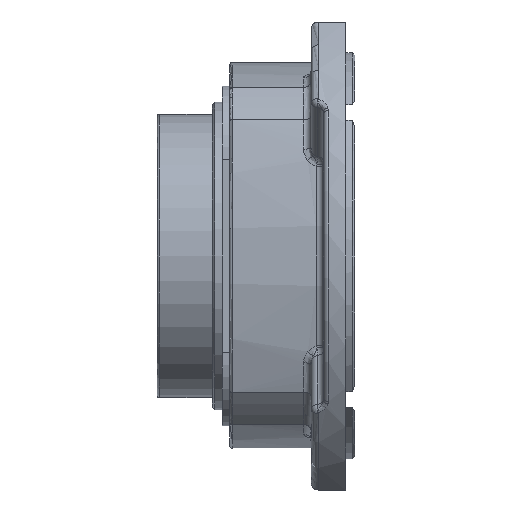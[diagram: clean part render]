
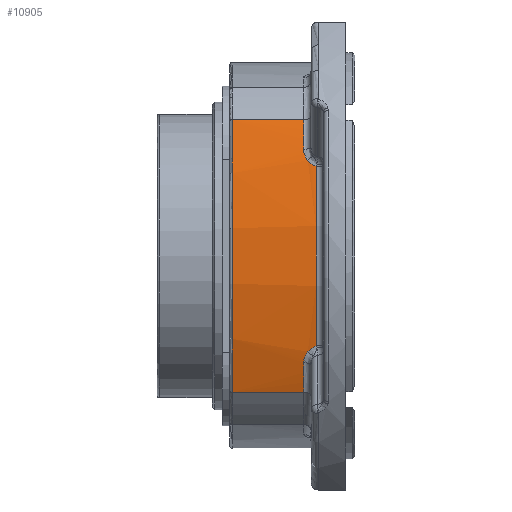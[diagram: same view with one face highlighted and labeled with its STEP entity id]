
A CAD part, front view. The second image highlights one B-rep face of the part: STEP entity #10905.
In plain terms, the highlighted cylindrical face has radius 157 mm (diameter 314 mm), a partial arc.
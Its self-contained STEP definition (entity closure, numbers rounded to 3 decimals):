
#63 = CARTESIAN_POINT ( 'NONE',  ( -14., -68.425, 55.335 ) ) ;
#64 = DIRECTION ( 'NONE',  ( -1., 0., 0. ) ) ;
#71 = CARTESIAN_POINT ( 'NONE',  ( -14., -68.425, -55.335 ) ) ;
#72 = DIRECTION ( 'NONE',  ( -1., 0., 0. ) ) ;
#76 = CARTESIAN_POINT ( 'NONE',  ( -14.877, -73.762, -38.283 ) ) ;
#77 = CARTESIAN_POINT ( 'NONE',  ( -46.03, 78.5, 0. ) ) ;
#78 = DIRECTION ( 'NONE',  ( 1., 0., 0. ) ) ;
#79 = DIRECTION ( 'NONE',  ( 0., 0., 1. ) ) ;
#80 = CARTESIAN_POINT ( 'NONE',  ( -15.336, -73.627, -38.814 ) ) ;
#81 = CARTESIAN_POINT ( 'NONE',  ( -17., -72.635, -42.52 ) ) ;
#82 = CARTESIAN_POINT ( 'NONE',  ( -16.86, -72.857, -41.72 ) ) ;
#83 = CARTESIAN_POINT ( 'NONE',  ( -17., 78.5, 0. ) ) ;
#84 = DIRECTION ( 'NONE',  ( -1., 0., 0. ) ) ;
#85 = DIRECTION ( 'NONE',  ( 0., 0., 1. ) ) ;
#86 = CARTESIAN_POINT ( 'NONE',  ( -17., -72.399, -43.342 ) ) ;
#87 = CARTESIAN_POINT ( 'NONE',  ( -16.437, -73.172, -40.555 ) ) ;
#88 = CARTESIAN_POINT ( 'NONE',  ( -16.263, -73.272, -40.18 ) ) ;
#89 = CARTESIAN_POINT ( 'NONE',  ( -15.849, -73.458, -39.469 ) ) ;
#90 = CARTESIAN_POINT ( 'NONE',  ( -15.611, -73.545, -39.131 ) ) ;
#91 = CARTESIAN_POINT ( 'NONE',  ( -15.336, -73.627, -38.814 ) ) ;
#92 = CARTESIAN_POINT ( 'NONE',  ( -15.336, -73.627, 38.814 ) ) ;
#93 = CARTESIAN_POINT ( 'NONE',  ( -15.61, -73.546, 39.131 ) ) ;
#94 = CARTESIAN_POINT ( 'NONE',  ( -14.35, -73.879, -37.814 ) ) ;
#95 = CARTESIAN_POINT ( 'NONE',  ( -13.218, -74.085, -36.973 ) ) ;
#96 = CARTESIAN_POINT ( 'NONE',  ( -12.615, -74.174, -36.601 ) ) ;
#97 = CARTESIAN_POINT ( 'NONE',  ( -12., -74.258, -36.25 ) ) ;
#98 = CARTESIAN_POINT ( 'NONE',  ( -12.615, -74.174, 36.601 ) ) ;
#99 = CARTESIAN_POINT ( 'NONE',  ( -13.218, -74.085, 36.972 ) ) ;
#100 = CARTESIAN_POINT ( 'NONE',  ( -12., 78.5, 0. ) ) ;
#101 = DIRECTION ( 'NONE',  ( -1., 0., 0. ) ) ;
#102 = DIRECTION ( 'NONE',  ( 0., 0., 1. ) ) ;
#103 = CARTESIAN_POINT ( 'NONE',  ( -12., -74.258, 36.25 ) ) ;
#104 = CARTESIAN_POINT ( 'NONE',  ( -14.349, -73.879, 37.813 ) ) ;
#105 = CARTESIAN_POINT ( 'NONE',  ( -14.877, -73.762, 38.284 ) ) ;
#106 = CARTESIAN_POINT ( 'NONE',  ( -15.336, -73.627, 38.814 ) ) ;
#107 = CARTESIAN_POINT ( 'NONE',  ( -15.849, -73.459, 39.468 ) ) ;
#108 = CARTESIAN_POINT ( 'NONE',  ( -16.263, -73.272, 40.18 ) ) ;
#109 = CARTESIAN_POINT ( 'NONE',  ( -16.439, -73.171, 40.559 ) ) ;
#110 = CARTESIAN_POINT ( 'NONE',  ( -16.718, -72.963, 41.329 ) ) ;
#111 = CARTESIAN_POINT ( 'NONE',  ( -16.823, -72.855, 41.722 ) ) ;
#112 = CARTESIAN_POINT ( 'NONE',  ( -16.964, -72.633, 42.522 ) ) ;
#113 = CARTESIAN_POINT ( 'NONE',  ( -17., -72.517, 42.932 ) ) ;
#114 = CARTESIAN_POINT ( 'NONE',  ( -17., -72.399, 43.342 ) ) ;
#117 = CARTESIAN_POINT ( 'NONE',  ( -17., 78.5, 0. ) ) ;
#118 = DIRECTION ( 'NONE',  ( -1., 0., 0. ) ) ;
#119 = DIRECTION ( 'NONE',  ( 0., 0., 1. ) ) ;
#384 = CARTESIAN_POINT ( 'NONE',  ( -46.03, -68.425, 55.335 ) ) ;
#412 = CARTESIAN_POINT ( 'NONE',  ( -15.336, -73.627, -38.814 ) ) ;
#413 = CARTESIAN_POINT ( 'NONE',  ( -17., -68.425, -55.335 ) ) ;
#415 = CARTESIAN_POINT ( 'NONE',  ( -12., -74.258, 36.25 ) ) ;
#416 = CARTESIAN_POINT ( 'NONE',  ( -17., -72.399, -43.342 ) ) ;
#418 = CARTESIAN_POINT ( 'NONE',  ( -17., -72.399, 43.342 ) ) ;
#425 = CARTESIAN_POINT ( 'NONE',  ( -12., -74.258, -36.25 ) ) ;
#426 = CARTESIAN_POINT ( 'NONE',  ( -46.03, -68.425, -55.335 ) ) ;
#430 = CARTESIAN_POINT ( 'NONE',  ( -15.336, -73.627, 38.814 ) ) ;
#488 = CARTESIAN_POINT ( 'NONE',  ( -17., -68.425, 55.335 ) ) ;
#774 = LINE ( 'NONE', #63, #776 ) ;
#775 = CIRCLE ( 'NONE', #5971, 157. ) ;
#776 = VECTOR ( 'NONE', #64, 1000. ) ;
#777 = CIRCLE ( 'NONE', #5970, 157. ) ;
#778 = LINE ( 'NONE', #71, #780 ) ;
#779 = CIRCLE ( 'NONE', #5972, 157. ) ;
#780 = VECTOR ( 'NONE', #72, 1000. ) ;
#781 = CIRCLE ( 'NONE', #5973, 157. ) ;
#951 = B_SPLINE_CURVE_WITH_KNOTS ( 'NONE', 3,
 ( #86, #81, #82, #87, #88, #89, #90, #91 ),
 .UNSPECIFIED., .F., .F.,
 ( 4, 2, 2, 4 ),
 ( 0., 0.003, 0.004, 0.005 ),
 .UNSPECIFIED. ) ;
#952 = B_SPLINE_CURVE_WITH_KNOTS ( 'NONE', 3,
 ( #80, #76, #94, #95, #96, #97 ),
 .UNSPECIFIED., .F., .F.,
 ( 4, 2, 4 ),
 ( 0., 0.002, 0.004 ),
 .UNSPECIFIED. ) ;
#953 = B_SPLINE_CURVE_WITH_KNOTS ( 'NONE', 3,
 ( #103, #98, #99, #104, #105, #106 ),
 .UNSPECIFIED., .F., .F.,
 ( 4, 2, 4 ),
 ( 0.001, 0.003, 0.005 ),
 .UNSPECIFIED. ) ;
#954 = B_SPLINE_CURVE_WITH_KNOTS ( 'NONE', 3,
 ( #92, #93, #107, #108, #109, #110, #111, #112, #113, #114 ),
 .UNSPECIFIED., .F., .F.,
 ( 4, 2, 2, 2, 4 ),
 ( 0., 0.001, 0.003, 0.004, 0.005 ),
 .UNSPECIFIED. ) ;
#1810 = FACE_OUTER_BOUND ( 'NONE', #11146, .T. ) ;
#1814 = CYLINDRICAL_SURFACE ( 'NONE', #2583, 157. ) ;
#2583 = AXIS2_PLACEMENT_3D ( 'NONE', #8346, #8345, #8342 ) ;
#5970 = AXIS2_PLACEMENT_3D ( 'NONE', #77, #78, #79 ) ;
#5971 = AXIS2_PLACEMENT_3D ( 'NONE', #83, #84, #85 ) ;
#5972 = AXIS2_PLACEMENT_3D ( 'NONE', #100, #101, #102 ) ;
#5973 = AXIS2_PLACEMENT_3D ( 'NONE', #117, #118, #119 ) ;
#8342 = DIRECTION ( 'NONE',  ( 0., 0., 1. ) ) ;
#8345 = DIRECTION ( 'NONE',  ( -1., 0., 0. ) ) ;
#8346 = CARTESIAN_POINT ( 'NONE',  ( -14., 78.5, 0. ) ) ;
#10905 = ADVANCED_FACE ( 'NONE', ( #1810 ), #1814, .T. ) ;
#11146 = EDGE_LOOP ( 'NONE', ( #11936, #11937, #11938, #11939, #11940, #11941, #11942, #11943, #11944, #11945 ) ) ;
#11936 = ORIENTED_EDGE ( 'NONE', *, *, #13305, .T. ) ;
#11937 = ORIENTED_EDGE ( 'NONE', *, *, #13307, .T. ) ;
#11938 = ORIENTED_EDGE ( 'NONE', *, *, #13308, .F. ) ;
#11939 = ORIENTED_EDGE ( 'NONE', *, *, #13309, .T. ) ;
#11940 = ORIENTED_EDGE ( 'NONE', *, *, #13310, .T. ) ;
#11941 = ORIENTED_EDGE ( 'NONE', *, *, #13311, .T. ) ;
#11942 = ORIENTED_EDGE ( 'NONE', *, *, #13312, .T. ) ;
#11943 = ORIENTED_EDGE ( 'NONE', *, *, #13313, .T. ) ;
#11944 = ORIENTED_EDGE ( 'NONE', *, *, #13314, .T. ) ;
#11945 = ORIENTED_EDGE ( 'NONE', *, *, #13315, .T. ) ;
#13305 = EDGE_CURVE ( 'NONE', #14778, #14674, #774, .T. ) ;
#13307 = EDGE_CURVE ( 'NONE', #14674, #14716, #777, .T. ) ;
#13308 = EDGE_CURVE ( 'NONE', #14703, #14716, #778, .T. ) ;
#13309 = EDGE_CURVE ( 'NONE', #14703, #14706, #775, .T. ) ;
#13310 = EDGE_CURVE ( 'NONE', #14706, #14702, #951, .T. ) ;
#13311 = EDGE_CURVE ( 'NONE', #14702, #14715, #952, .T. ) ;
#13312 = EDGE_CURVE ( 'NONE', #14715, #14705, #779, .T. ) ;
#13313 = EDGE_CURVE ( 'NONE', #14705, #14720, #953, .T. ) ;
#13314 = EDGE_CURVE ( 'NONE', #14720, #14708, #954, .T. ) ;
#13315 = EDGE_CURVE ( 'NONE', #14708, #14778, #781, .T. ) ;
#14674 = VERTEX_POINT ( 'NONE', #384 ) ;
#14702 = VERTEX_POINT ( 'NONE', #412 ) ;
#14703 = VERTEX_POINT ( 'NONE', #413 ) ;
#14705 = VERTEX_POINT ( 'NONE', #415 ) ;
#14706 = VERTEX_POINT ( 'NONE', #416 ) ;
#14708 = VERTEX_POINT ( 'NONE', #418 ) ;
#14715 = VERTEX_POINT ( 'NONE', #425 ) ;
#14716 = VERTEX_POINT ( 'NONE', #426 ) ;
#14720 = VERTEX_POINT ( 'NONE', #430 ) ;
#14778 = VERTEX_POINT ( 'NONE', #488 ) ;
